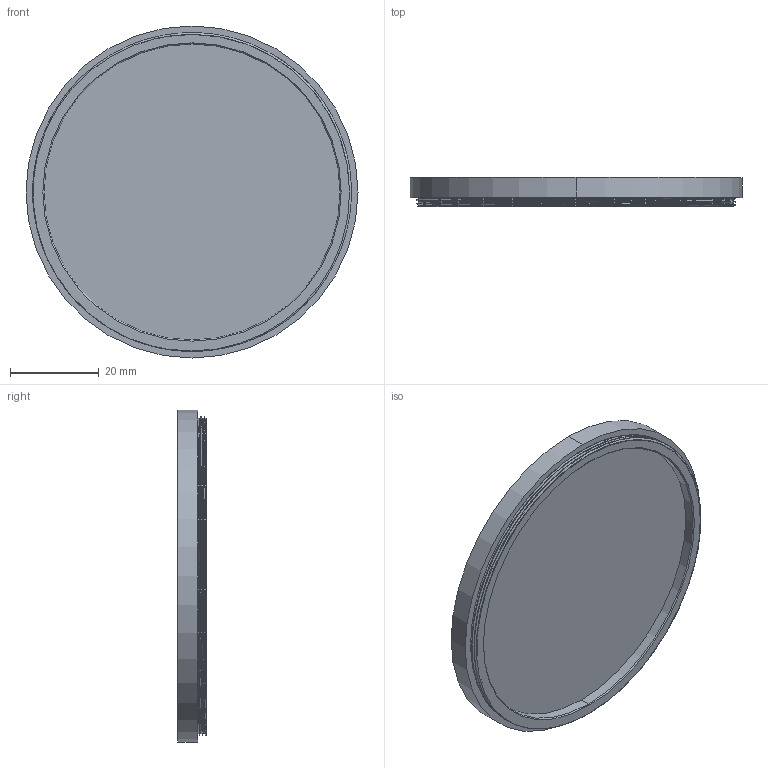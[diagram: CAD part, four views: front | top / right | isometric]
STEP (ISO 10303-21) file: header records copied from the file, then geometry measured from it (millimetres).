
FILE_DESCRIPTION (( 'STEP AP214' ), '1' );
FILE_NAME ('M72 x P0.75.STEP', '2023-01-19T08:18:20', ( '' ), ( '' ), 'SwSTEP 2.0', 'SolidWorks 2021', '' );
FILE_SCHEMA (( 'AUTOMOTIVE_DESIGN' ));
Length unit declared in the file: millimetre
Products named in the file (1): M72 x P0.75
Bounding box: 75 x 6.5 x 75 mm (x, y, z)
Volume: 5293.4 mm3; surface area: 13853.9 mm2
Topology: 3 solids, 3 shells, 45 faces, 103 edges, 68 vertices
Faces by surface type: cylinder 24, plane 11, bspline 8, cone 2
Entity records: 2867 total; most frequent: CARTESIAN_POINT 1896, ORIENTED_EDGE 206, DIRECTION 170, EDGE_CURVE 103, AXIS2_PLACEMENT_3D 72, VERTEX_POINT 68, EDGE_LOOP 53, ADVANCED_FACE 45
